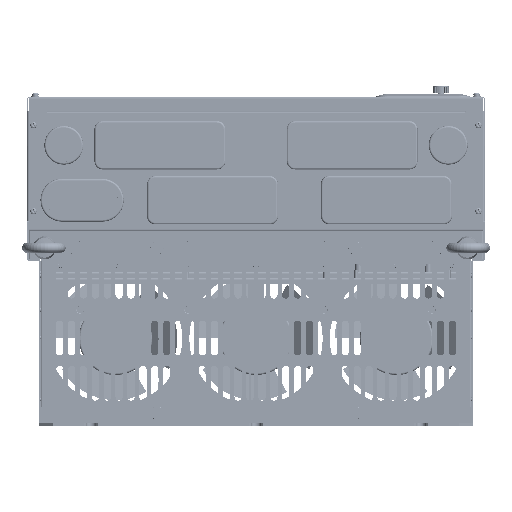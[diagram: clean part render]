
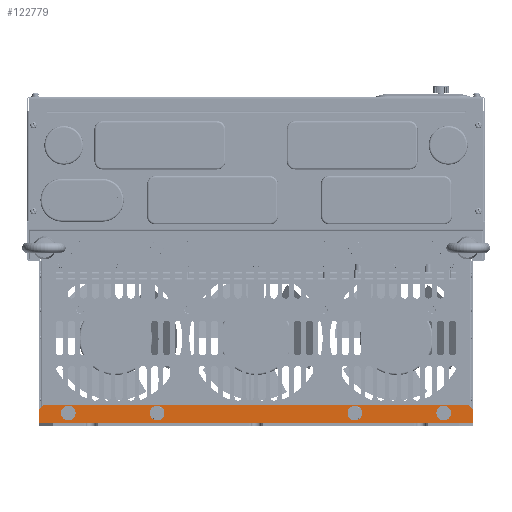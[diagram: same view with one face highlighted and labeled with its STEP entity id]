
A CAD part, front view. The second image highlights one B-rep face of the part: STEP entity #122779.
In plain terms, the highlighted planar face has unit normal (0, -1, 0).
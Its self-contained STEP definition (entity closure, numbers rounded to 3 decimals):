
#122096=CARTESIAN_POINT('',(-205.,27.,-14.));
#122097=DIRECTION('',(0.,-1.,0.));
#122098=DIRECTION('',(-1.,0.,0.));
#122099=AXIS2_PLACEMENT_3D('',#122096,#122097,#122098);
#122101=CARTESIAN_POINT('',(-205.,27.,-14.));
#122102=DIRECTION('',(0.,-1.,0.));
#122103=DIRECTION('',(1.,0.,0.));
#122104=AXIS2_PLACEMENT_3D('',#122101,#122102,#122103);
#122106=CARTESIAN_POINT('',(-108.,27.,-14.));
#122107=DIRECTION('',(0.,-1.,0.));
#122108=DIRECTION('',(-1.,0.,0.));
#122109=AXIS2_PLACEMENT_3D('',#122106,#122107,#122108);
#122111=CARTESIAN_POINT('',(-108.,27.,-14.));
#122112=DIRECTION('',(0.,-1.,0.));
#122113=DIRECTION('',(1.,0.,0.));
#122114=AXIS2_PLACEMENT_3D('',#122111,#122112,#122113);
#122116=CARTESIAN_POINT('',(205.,27.,-14.));
#122117=DIRECTION('',(0.,-1.,0.));
#122118=DIRECTION('',(-1.,0.,0.));
#122119=AXIS2_PLACEMENT_3D('',#122116,#122117,#122118);
#122121=CARTESIAN_POINT('',(205.,27.,-14.));
#122122=DIRECTION('',(0.,-1.,0.));
#122123=DIRECTION('',(1.,0.,0.));
#122124=AXIS2_PLACEMENT_3D('',#122121,#122122,#122123);
#122126=CARTESIAN_POINT('',(108.,27.,-14.));
#122127=DIRECTION('',(0.,-1.,0.));
#122128=DIRECTION('',(-1.,0.,0.));
#122129=AXIS2_PLACEMENT_3D('',#122126,#122127,#122128);
#122131=CARTESIAN_POINT('',(108.,27.,-14.));
#122132=DIRECTION('',(0.,-1.,0.));
#122133=DIRECTION('',(1.,0.,0.));
#122134=AXIS2_PLACEMENT_3D('',#122131,#122132,#122133);
#122136=DIRECTION('',(0.707,0.,-0.707));
#122137=VECTOR('',#122136,7.071);
#122138=CARTESIAN_POINT('',(-237.,27.,-17.5));
#122139=LINE('',#122138,#122137);
#122140=DIRECTION('',(0.,0.,1.));
#122141=VECTOR('',#122140,14.);
#122142=CARTESIAN_POINT('',(-237.,27.,-17.5));
#122143=LINE('',#122142,#122141);
#122144=DIRECTION('',(0.,0.,-1.));
#122145=VECTOR('',#122144,14.);
#122146=CARTESIAN_POINT('',(237.,27.,-3.5));
#122147=LINE('',#122146,#122145);
#122148=DIRECTION('',(0.707,0.,0.707));
#122149=VECTOR('',#122148,7.071);
#122150=CARTESIAN_POINT('',(232.,27.,-22.5));
#122151=LINE('',#122150,#122149);
#122152=DIRECTION('',(-1.,0.,0.));
#122153=VECTOR('',#122152,464.);
#122154=CARTESIAN_POINT('',(232.,27.,-22.5));
#122155=LINE('',#122154,#122153);
#122323=DIRECTION('',(1.,0.,0.));
#122324=VECTOR('',#122323,474.);
#122325=CARTESIAN_POINT('',(-237.,27.,-3.5));
#122326=LINE('',#122325,#122324);
#122409=CARTESIAN_POINT('',(-237.,27.,-3.5));
#122410=CARTESIAN_POINT('',(237.,27.,-3.5));
#122411=VERTEX_POINT('',#122409);
#122412=VERTEX_POINT('',#122410);
#122449=CARTESIAN_POINT('',(-209.5,27.,-14.));
#122450=CARTESIAN_POINT('',(-200.5,27.,-14.));
#122451=VERTEX_POINT('',#122449);
#122452=VERTEX_POINT('',#122450);
#122457=CARTESIAN_POINT('',(-237.,27.,-17.5));
#122458=VERTEX_POINT('',#122457);
#122459=CARTESIAN_POINT('',(-232.,27.,-22.5));
#122460=VERTEX_POINT('',#122459);
#122465=CARTESIAN_POINT('',(232.,27.,-22.5));
#122466=VERTEX_POINT('',#122465);
#122467=CARTESIAN_POINT('',(237.,27.,-17.5));
#122468=VERTEX_POINT('',#122467);
#122541=CARTESIAN_POINT('',(-112.5,27.,-14.));
#122542=CARTESIAN_POINT('',(-103.5,27.,-14.));
#122543=VERTEX_POINT('',#122541);
#122544=VERTEX_POINT('',#122542);
#122545=CARTESIAN_POINT('',(200.5,27.,-14.));
#122546=CARTESIAN_POINT('',(209.5,27.,-14.));
#122547=VERTEX_POINT('',#122545);
#122548=VERTEX_POINT('',#122546);
#122549=CARTESIAN_POINT('',(103.5,27.,-14.));
#122550=CARTESIAN_POINT('',(112.5,27.,-14.));
#122551=VERTEX_POINT('',#122549);
#122552=VERTEX_POINT('',#122550);
#122738=CARTESIAN_POINT('',(237.,27.,0.));
#122739=DIRECTION('',(0.,1.,0.));
#122740=DIRECTION('',(1.,0.,0.));
#122741=AXIS2_PLACEMENT_3D('',#122738,#122739,#122740);
#122742=PLANE('',#122741);
#122744=ORIENTED_EDGE('',*,*,#122743,.F.);
#122746=ORIENTED_EDGE('',*,*,#122745,.T.);
#122748=ORIENTED_EDGE('',*,*,#122747,.T.);
#122750=ORIENTED_EDGE('',*,*,#122749,.T.);
#122752=ORIENTED_EDGE('',*,*,#122751,.F.);
#122754=ORIENTED_EDGE('',*,*,#122753,.T.);
#122755=EDGE_LOOP('',(#122744,#122746,#122748,#122750,#122752,#122754));
#122756=FACE_OUTER_BOUND('',#122755,.F.);
#122758=ORIENTED_EDGE('',*,*,#122757,.T.);
#122760=ORIENTED_EDGE('',*,*,#122759,.T.);
#122761=EDGE_LOOP('',(#122758,#122760));
#122762=FACE_BOUND('',#122761,.F.);
#122764=ORIENTED_EDGE('',*,*,#122763,.T.);
#122766=ORIENTED_EDGE('',*,*,#122765,.T.);
#122767=EDGE_LOOP('',(#122764,#122766));
#122768=FACE_BOUND('',#122767,.F.);
#122770=ORIENTED_EDGE('',*,*,#122769,.T.);
#122772=ORIENTED_EDGE('',*,*,#122771,.T.);
#122773=EDGE_LOOP('',(#122770,#122772));
#122774=FACE_BOUND('',#122773,.F.);
#122775=ORIENTED_EDGE('',*,*,#122718,.T.);
#122776=ORIENTED_EDGE('',*,*,#122732,.T.);
#122777=EDGE_LOOP('',(#122775,#122776));
#122778=FACE_BOUND('',#122777,.F.);
#122779=ADVANCED_FACE('',(#122756,#122762,#122768,#122774,#122778),#122742,.F.);
#122100=CIRCLE('',#122099,4.5);
#122105=CIRCLE('',#122104,4.5);
#122110=CIRCLE('',#122109,4.5);
#122115=CIRCLE('',#122114,4.5);
#122120=CIRCLE('',#122119,4.5);
#122125=CIRCLE('',#122124,4.5);
#122130=CIRCLE('',#122129,4.5);
#122135=CIRCLE('',#122134,4.5);
#122718=EDGE_CURVE('',#122451,#122452,#122100,.T.);
#122732=EDGE_CURVE('',#122452,#122451,#122105,.T.);
#122743=EDGE_CURVE('',#122458,#122460,#122139,.T.);
#122745=EDGE_CURVE('',#122458,#122411,#122143,.T.);
#122747=EDGE_CURVE('',#122411,#122412,#122326,.T.);
#122749=EDGE_CURVE('',#122412,#122468,#122147,.T.);
#122751=EDGE_CURVE('',#122466,#122468,#122151,.T.);
#122753=EDGE_CURVE('',#122466,#122460,#122155,.T.);
#122757=EDGE_CURVE('',#122543,#122544,#122110,.T.);
#122759=EDGE_CURVE('',#122544,#122543,#122115,.T.);
#122763=EDGE_CURVE('',#122547,#122548,#122120,.T.);
#122765=EDGE_CURVE('',#122548,#122547,#122125,.T.);
#122769=EDGE_CURVE('',#122551,#122552,#122130,.T.);
#122771=EDGE_CURVE('',#122552,#122551,#122135,.T.);
